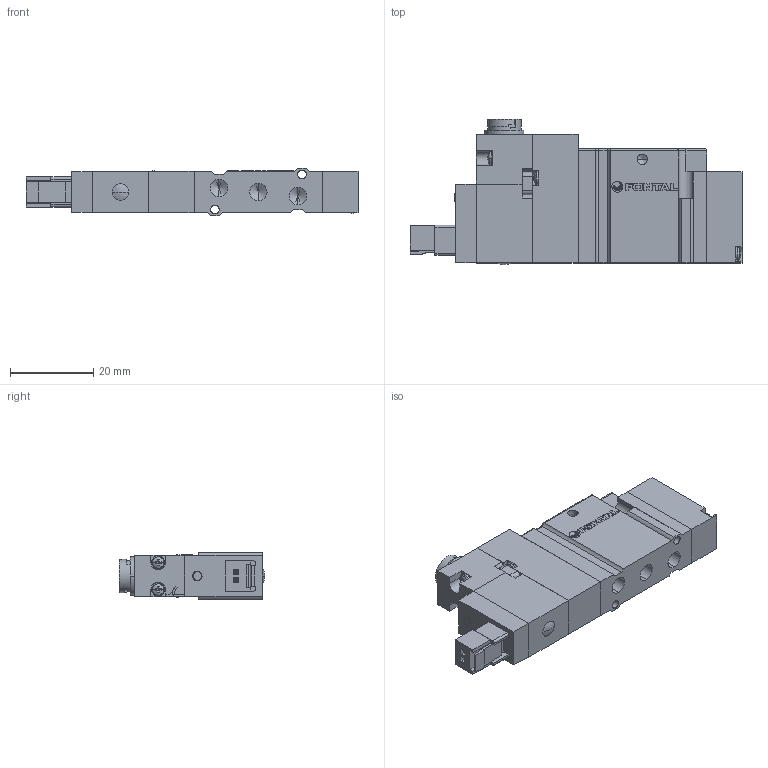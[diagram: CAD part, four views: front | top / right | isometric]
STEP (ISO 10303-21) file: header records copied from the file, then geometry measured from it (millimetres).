
FILE_DESCRIPTION (( 'STEP AP203' ), '1' );
FILE_NAME ('A05RS25#-#-#-E.STEP', '2016-02-04T02:08:45', ( 'Sam Lin' ), ( '' ), 'SwSTEP 2.0', 'SolidWorks 2013', '' );
FILE_SCHEMA (( 'CONFIG_CONTROL_DESIGN' ));
Length unit declared in the file: metre
Products named in the file (14): A05RS25-6; A05RS25-7; A05RS25-#-#-#; A05RS25-8; A05RS25-1; A05RS25-9; ISO 7045 - M1.6 x 10; A05RS25-10; A05RS25-2; mark-ADEX-A05RS; A05RS25-3; A05RS25#-#-#-E; A05RS25-4; A05RS25-5
Assembly tree (20 placements, depth 2):
  A05RS25#-#-#-E
    A05RS25-#-#-#
    A05RS25-1
    ISO 7045 - M1.6 x 10  x6
    A05RS25-2
    A05RS25-3
    A05RS25-4
    A05RS25-5
    A05RS25-6  x2
    A05RS25-7
    A05RS25-8  x2
    A05RS25-9
    A05RS25-10
    mark-ADEX-A05RS
Bounding box: 80 x 35 x 11.4 mm (x, y, z)
Volume: 17185.8 mm3; surface area: 11569.7 mm2
Topology: 27 solids, 27 shells, 704 faces, 1766 edges, 1110 vertices
Faces by surface type: plane 434, cylinder 142, cone 72, bspline 56
Entity records: 16259 total; most frequent: CARTESIAN_POINT 3346, ORIENTED_EDGE 2344, DIRECTION 2286, EDGE_CURVE 1172, LINE 822, VECTOR 822, VERTEX_POINT 764, AXIS2_PLACEMENT_3D 732
